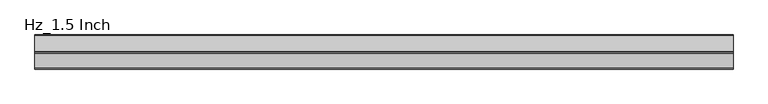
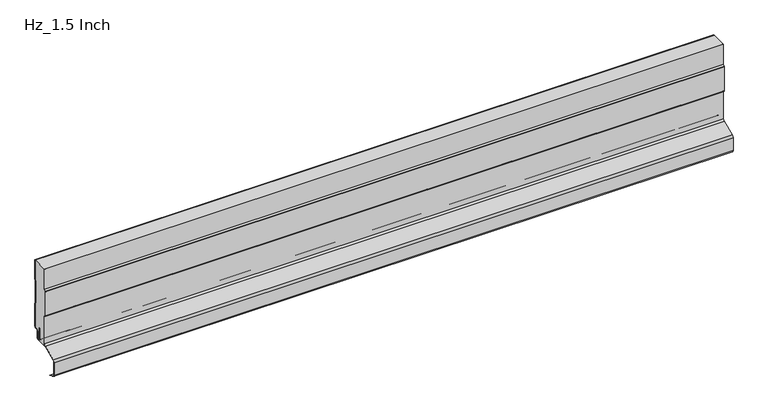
"""IFC4 building model written with IfcOpenShell, lengths in millimetres: plate geometry, AWIP_R18_CP_HR5_Hz_Roof Panel : Hz_1.5 Inch."""

from ifc_helpers import new_model, si_unit, point, frame, frame_2d, origin, place, context, project, spatial, polyline, circle_curve, trimmed, segment, composite_curve, outline, extrude, source, transform, mapped, element, save
from ifc_brep_helpers import plane_surface, cylinder_surface, revolved_surface, advanced_brep


def hz_1_5_inch_2827782e(model_context):
    return source(origin(), model_context, "Body", "SolidModel", [
        extrude(outline(composite_curve([segment(polyline([(-0.8, 161.5426774), (-0.8, 203.2), (0.0, 203.2), (0.0, 161.5426774)]), True, "CONTINUOUS"), segment(trimmed(circle_curve(frame_2d((-3.2, 161.5426774)), 3.2), [point((0.0, 161.5426774))], [point((-0.2624164, 160.2735823))], False, "CARTESIAN"), True, "CONTINUOUS"), segment(polyline([(-0.2624164, 160.2735823), (-1.2949872, 157.8834831)]), True, "CONTINUOUS"), segment(trimmed(circle_curve(frame_2d((1.0, 156.8920026)), 2.5), [point((-1.2949872, 157.8834831))], [point((-1.5, 156.8920026))], True, "CARTESIAN"), True, "CONTINUOUS"), segment(polyline([(-1.5, 156.8920026), (-1.5, 108.5079974)]), True, "CONTINUOUS"), segment(trimmed(circle_curve(frame_2d((1.0, 108.5079974)), 2.5), [point((-1.5, 108.5079974))], [point((-1.2949872, 107.5165169))], True, "CARTESIAN"), True, "CONTINUOUS"), segment(polyline([(-1.2949872, 107.5165169), (-0.2624164, 105.1264177)]), True, "CONTINUOUS"), segment(trimmed(circle_curve(frame_2d((-3.2, 103.8573226)), 3.2), [point((-0.2624164, 105.1264177))], [point((0.0, 103.8573226))], False, "CARTESIAN"), True, "CONTINUOUS"), segment(polyline([(0.0, 103.8573226), (0.0, 54.1)]), True, "CONTINUOUS"), segment(trimmed(circle_curve(frame_2d((-3.0, 54.1)), 3.0), [point((0.0, 54.1))], [point((-3.0, 51.1))], False, "CARTESIAN"), True, "CONTINUOUS"), segment(polyline([(-3.0, 51.1), (-5.0, 51.1)]), True, "CONTINUOUS"), segment(trimmed(circle_curve(frame_2d((-5.0, 47.1)), 4.0), [point((-5.0, 51.1))], [point((-9.0, 47.1))], True, "CARTESIAN"), True, "CONTINUOUS"), segment(polyline([(-9.0, 47.1), (-9.0, 33.5841899)]), True, "CONTINUOUS"), segment(trimmed(circle_curve(frame_2d((-12.0, 33.5841899)), 3.0), [point((-9.0, 33.5841899))], [point((-12.0, 30.5841899))], False, "CARTESIAN"), True, "CONTINUOUS"), segment(polyline([(-12.0, 30.5841899), (-14.0, 30.5841899)]), True, "CONTINUOUS"), segment(trimmed(circle_curve(frame_2d((-14.0, 33.5841899)), 3.0), [point((-14.0, 30.5841899))], [point((-17.0, 33.5841899))], False, "CARTESIAN"), True, "CONTINUOUS"), segment(polyline([(-17.0, 33.5841899), (-17.0, 59.5252318), (-16.2, 59.5252318), (-16.2, 33.5841899)]), True, "CONTINUOUS"), segment(trimmed(circle_curve(frame_2d((-14.0, 33.5841899)), 2.2), [point((-16.2, 33.5841899))], [point((-14.0, 31.3841899))], True, "CARTESIAN"), True, "CONTINUOUS"), segment(polyline([(-14.0, 31.3841899), (-12.0, 31.3841899)]), True, "CONTINUOUS"), segment(trimmed(circle_curve(frame_2d((-12.0, 33.5841899)), 2.2), [point((-12.0, 31.3841899))], [point((-9.8, 33.5841899))], True, "CARTESIAN"), True, "CONTINUOUS"), segment(polyline([(-9.8, 33.5841899), (-9.8, 47.1)]), True, "CONTINUOUS"), segment(trimmed(circle_curve(frame_2d((-5.0, 47.1)), 4.8), [point((-9.8, 47.1))], [point((-5.0, 51.9))], False, "CARTESIAN"), True, "CONTINUOUS"), segment(polyline([(-5.0, 51.9), (-3.0, 51.9)]), True, "CONTINUOUS"), segment(trimmed(circle_curve(frame_2d((-3.0, 54.1)), 2.2), [point((-3.0, 51.9))], [point((-0.8, 54.1))], True, "CARTESIAN"), True, "CONTINUOUS"), segment(polyline([(-0.8, 54.1), (-0.8, 103.8573226)]), True, "CONTINUOUS"), segment(trimmed(circle_curve(frame_2d((-3.2, 103.8573226)), 2.4), [point((-0.8, 103.8573226))], [point((-0.9968123, 104.8091439))], True, "CARTESIAN"), True, "CONTINUOUS"), segment(polyline([(-0.9968123, 104.8091439), (-2.0293831, 107.1992431)]), True, "CONTINUOUS"), segment(trimmed(circle_curve(frame_2d((1.0, 108.5079974)), 3.3), [point((-2.0293831, 107.1992431))], [point((-2.3, 108.5079974))], False, "CARTESIAN"), True, "CONTINUOUS"), segment(polyline([(-2.3, 108.5079974), (-2.3, 156.8920026)]), True, "CONTINUOUS"), segment(trimmed(circle_curve(frame_2d((1.0, 156.8920026)), 3.3), [point((-2.3, 156.8920026))], [point((-2.0293831, 158.2007569))], False, "CARTESIAN"), True, "CONTINUOUS"), segment(polyline([(-2.0293831, 158.2007569), (-0.9968123, 160.5908561)]), True, "CONTINUOUS"), segment(trimmed(circle_curve(frame_2d((-3.2, 161.5426774)), 2.4), [point((-0.9968123, 160.5908561))], [point((-0.8, 161.5426774))], True, "CARTESIAN"), True, "CONTINUOUS")], self_intersect=False)), frame((-723.9042608, 0.0, 0.0), z_axis=(1.0, 0.0, 0.0), x_axis=(0.0, 1.0, 0.0)), (0.0, 0.0, 1.0), 1447.8085217),
        extrude(outline(composite_curve([segment(polyline([(-35.3158805, 158.5882334), (-35.3158805, 203.2), (-34.5158805, 203.2), (-34.5158805, 158.7499765)]), True, "CONTINUOUS"), segment(trimmed(circle_curve(frame_2d((-35.8158805, 158.7499765)), 1.3), [point((-34.5158805, 158.7499765))], [point((-34.7621796, 157.9885867))], False, "CARTESIAN"), True, "CONTINUOUS"), segment(polyline([(-34.7621796, 157.9885867), (-37.2999999, 154.4764522), (-37.2999999, 100.2735719), (-34.7621795, 96.7614373)]), True, "CONTINUOUS"), segment(trimmed(circle_curve(frame_2d((-35.8158804, 96.0000475)), 1.3), [point((-34.7621795, 96.7614373))], [point((-34.5158804, 96.0000475))], False, "CARTESIAN"), True, "CONTINUOUS"), segment(polyline([(-34.5158804, 96.0000475), (-34.5158804, 35.2161306)]), True, "CONTINUOUS"), segment(trimmed(circle_curve(frame_2d((-39.3158804, 35.2161306)), 4.8), [point((-34.5158804, 35.2161306))], [point((-37.4404013, 30.7976944))], False, "CARTESIAN"), True, "CONTINUOUS"), segment(polyline([(-37.4404013, 30.7976944), (-67.4569246, 18.0566792)]), True, "CONTINUOUS"), segment(trimmed(circle_curve(frame_2d((-65.8158804, 14.1905475)), 4.2), [point((-67.4569246, 18.0566792))], [point((-70.0158804, 14.1905475))], True, "CARTESIAN"), True, "CONTINUOUS"), segment(polyline([(-70.0158804, 14.1905475), (-70.0158804, -14.1905446)]), True, "CONTINUOUS"), segment(trimmed(circle_curve(frame_2d((-65.8158804, -14.1905446)), 4.2), [point((-70.0158804, -14.1905446))], [point((-67.4569214, -18.0566776))], True, "CARTESIAN"), True, "CONTINUOUS"), segment(polyline([(-67.4569214, -18.0566776), (-54.8561658, -23.4052667), (-55.1672483, -24.1423084), (-67.7695007, -18.7930838)]), True, "CONTINUOUS"), segment(trimmed(circle_curve(frame_2d((-65.8158804, -14.1905446)), 5.0), [point((-67.7695007, -18.7930838))], [point((-70.8158804, -14.1905446))], False, "CARTESIAN"), True, "CONTINUOUS"), segment(polyline([(-70.8158804, -14.1905446), (-70.8158804, 14.1905475)]), True, "CONTINUOUS"), segment(trimmed(circle_curve(frame_2d((-65.8158804, 14.1905475)), 5.0), [point((-70.8158804, 14.1905475))], [point((-67.7695045, 18.7930852))], False, "CARTESIAN"), True, "CONTINUOUS"), segment(polyline([(-67.7695045, 18.7930852), (-37.7529811, 31.5341005)]), True, "CONTINUOUS"), segment(trimmed(circle_curve(frame_2d((-39.3158804, 35.2161306)), 4.0), [point((-37.7529811, 31.5341005))], [point((-35.3158804, 35.2161306))], True, "CARTESIAN"), True, "CONTINUOUS"), segment(polyline([(-35.3158804, 35.2161306), (-35.3158804, 96.1617908), (-37.8158083, 99.6214851)]), True, "CONTINUOUS"), segment(trimmed(circle_curve(frame_2d((-36.5999996, 100.5000119)), 1.5), [point((-37.8158083, 99.6214851))], [point((-38.0999996, 100.5000119))], False, "CARTESIAN"), True, "CONTINUOUS"), segment(polyline([(-38.0999996, 100.5000119), (-38.0999996, 154.2490404)]), True, "CONTINUOUS"), segment(trimmed(circle_curve(frame_2d((-36.5999999, 154.2500118)), 1.5), [point((-38.0999996, 154.2490404))], [point((-37.8158086, 155.1285386))], False, "CARTESIAN"), True, "CONTINUOUS"), segment(polyline([(-37.8158086, 155.1285386), (-35.3158805, 158.5882334)]), True, "CONTINUOUS")], self_intersect=False)), frame((-723.9042608, 0.0, 0.0), z_axis=(1.0, 0.0, 0.0), x_axis=(0.0, 1.0, 0.0)), (0.0, 0.0, 1.0), 1447.8085217),
        advanced_brep(
        [(-723.9042608, -34.5158809, 203.2), (723.9042608, -34.5158809, 203.2), (723.9042608, -0.8, 203.2), (-723.9042608, -0.8, 203.2), (723.9042608, -34.5158809, 158.7499765), (-723.9042608, -34.5158809, 158.7499765), (-723.9042608, -34.76218, 157.9885867), (723.9042608, -34.76218, 157.9885867), (-723.9042608, -37.3000003, 154.4764522), (723.9042608, -37.3000003, 154.4764522), (-723.9042608, -37.3000003, 100.2735719), (723.9042608, -37.3000003, 100.2735719), (-723.9042608, -34.7621799, 96.7614373), (723.9042608, -34.7621799, 96.7614373), (-723.9042608, -34.5158808, 96.0000475), (723.9042608, -34.5158808, 96.0000475), (-723.9042608, -34.5158808, 35.2161306), (723.9042608, -34.5158808, 35.2161306), (-723.9042608, -38.1209553, 30.5672433), (723.9042608, -38.1209553, 30.5672433), (-723.9042608, -14.0, 30.5672433), (723.9042608, -14.0, 30.5672433), (-723.9042608, -17.0, 33.5672433), (723.9042608, -17.0, 33.5672433), (-723.9042608, -17.0, 59.5082852), (723.9042608, -17.0, 59.5082852), (-723.9042608, -16.2, 59.5082852), (723.9042608, -16.2, 59.5082852), (-723.9042608, -16.2, 33.5672433), (723.9042608, -16.2, 33.5672433), (-723.9042608, -14.0, 31.3672433), (723.9042608, -14.0, 31.3672433), (-723.9042608, -12.0, 31.3672433), (723.9042608, -12.0, 31.3672433), (-723.9042608, -9.8, 33.5672433), (723.9042608, -9.8, 33.5672433), (-723.9042608, -9.8, 47.0830534), (723.9042608, -9.8, 47.0830534), (-723.9042608, -5.0, 51.8830534), (723.9042608, -5.0, 51.8830534), (-723.9042608, -3.0, 51.8830534), (723.9042608, -3.0, 51.8830534), (-723.9042608, -0.8, 54.0830534), (723.9042608, -0.8, 54.0830534), (-723.9042608, -0.8, 103.840376), (723.9042608, -0.8, 103.840376), (-723.9042608, -0.9968123, 104.7921973), (723.9042608, -0.9968123, 104.7921973), (-723.9042608, -2.0293831, 107.1822965), (723.9042608, -2.0293831, 107.1822965), (-723.9042608, -2.3, 108.4910509), (723.9042608, -2.3, 108.4910509), (-723.9042608, -2.3, 156.875056), (723.9042608, -2.3, 156.875056), (-723.9042608, -2.0293831, 158.1838103), (723.9042608, -2.0293831, 158.1838103), (-723.9042608, -0.9968123, 160.5739095), (723.9042608, -0.9968123, 160.5739095), (-723.9042608, -0.8, 161.5257309), (723.9042608, -0.8, 161.5257309)],
        [
            (0, 1),
            (1, 2),
            (2, 3),
            (3, 0),
            (4, 1),
            (0, 5),
            (5, 4),
            (6, 7),
            (7, 4, circle_curve(frame((723.9042608, -35.8158809, 158.7499765), z_axis=(1.0, 0.0, 0.0), x_axis=(0.0, 0.0, 1.0)), 1.3)),
            (5, 6, circle_curve(frame((-723.9042608, -35.8158809, 158.7499765), z_axis=(-1.0, 0.0, 0.0), x_axis=(0.0, 0.0, 1.0)), 1.3)),
            (8, 9),
            (9, 7),
            (6, 8),
            (10, 11),
            (11, 9),
            (8, 10),
            (12, 13),
            (13, 11),
            (10, 12),
            (14, 15),
            (15, 13, circle_curve(frame((723.9042608, -35.8158808, 96.0000475), z_axis=(1.0, 0.0, 0.0), x_axis=(0.0, 0.0, 1.0)), 1.3)),
            (12, 14, circle_curve(frame((-723.9042608, -35.8158808, 96.0000475), z_axis=(-1.0, 0.0, 0.0), x_axis=(0.0, 0.0, 1.0)), 1.3)),
            (16, 17),
            (17, 15),
            (14, 16),
            (18, 19),
            (19, 17, circle_curve(frame((723.9042608, -39.3158808, 35.2161306), z_axis=(1.0, 0.0, 0.0), x_axis=(0.0, 0.0, 1.0)), 4.8)),
            (16, 18, circle_curve(frame((-723.9042608, -39.3158808, 35.2161306), z_axis=(-1.0, 0.0, 0.0), x_axis=(0.0, 0.0, 1.0)), 4.8)),
            (20, 21),
            (21, 19),
            (18, 20),
            (22, 23),
            (23, 21, circle_curve(frame((723.9042608, -14.0, 33.5672433), z_axis=(1.0, 0.0, 0.0), x_axis=(0.0, 0.0, 1.0)), 3.0)),
            (20, 22, circle_curve(frame((-723.9042608, -14.0, 33.5672433), z_axis=(-1.0, 0.0, 0.0), x_axis=(0.0, 0.0, 1.0)), 3.0)),
            (24, 25),
            (25, 23),
            (22, 24),
            (26, 27),
            (27, 25),
            (24, 26),
            (28, 29),
            (29, 27),
            (26, 28),
            (30, 31),
            (31, 29, circle_curve(frame((723.9042608, -14.0, 33.5672433), z_axis=(-1.0, 0.0, 0.0), x_axis=(0.0, 0.0, 1.0)), 2.2)),
            (28, 30, circle_curve(frame((-723.9042608, -14.0, 33.5672433), z_axis=(1.0, 0.0, 0.0), x_axis=(0.0, 0.0, 1.0)), 2.2)),
            (32, 33),
            (33, 31),
            (30, 32),
            (34, 35),
            (35, 33, circle_curve(frame((723.9042608, -12.0, 33.5672433), z_axis=(-1.0, 0.0, 0.0), x_axis=(0.0, 0.0, 1.0)), 2.2)),
            (32, 34, circle_curve(frame((-723.9042608, -12.0, 33.5672433), z_axis=(1.0, 0.0, 0.0), x_axis=(0.0, 0.0, 1.0)), 2.2)),
            (36, 37),
            (37, 35),
            (34, 36),
            (38, 39),
            (39, 37, circle_curve(frame((723.9042608, -5.0, 47.0830534), z_axis=(1.0, 0.0, 0.0), x_axis=(0.0, 0.0, 1.0)), 4.8)),
            (36, 38, circle_curve(frame((-723.9042608, -5.0, 47.0830534), z_axis=(-1.0, 0.0, 0.0), x_axis=(0.0, 0.0, 1.0)), 4.8)),
            (40, 41),
            (41, 39),
            (38, 40),
            (42, 43),
            (43, 41, circle_curve(frame((723.9042608, -3.0, 54.0830534), z_axis=(-1.0, 0.0, 0.0), x_axis=(0.0, 0.0, 1.0)), 2.2)),
            (40, 42, circle_curve(frame((-723.9042608, -3.0, 54.0830534), z_axis=(1.0, 0.0, 0.0), x_axis=(0.0, 0.0, 1.0)), 2.2)),
            (44, 45),
            (45, 43),
            (42, 44),
            (46, 47),
            (47, 45, circle_curve(frame((723.9042608, -3.2, 103.840376), z_axis=(-1.0, 0.0, 0.0), x_axis=(0.0, 0.0, 1.0)), 2.4)),
            (44, 46, circle_curve(frame((-723.9042608, -3.2, 103.840376), z_axis=(1.0, 0.0, 0.0), x_axis=(0.0, 0.0, 1.0)), 2.4)),
            (48, 49),
            (49, 47),
            (46, 48),
            (50, 51),
            (51, 49, circle_curve(frame((723.9042608, 1.0, 108.4910509), z_axis=(1.0, 0.0, 0.0), x_axis=(0.0, 0.0, 1.0)), 3.3)),
            (48, 50, circle_curve(frame((-723.9042608, 1.0, 108.4910509), z_axis=(-1.0, 0.0, 0.0), x_axis=(0.0, 0.0, 1.0)), 3.3)),
            (52, 53),
            (53, 51),
            (50, 52),
            (54, 55),
            (55, 53, circle_curve(frame((723.9042608, 1.0, 156.875056), z_axis=(1.0, 0.0, 0.0), x_axis=(0.0, 0.0, 1.0)), 3.3)),
            (52, 54, circle_curve(frame((-723.9042608, 1.0, 156.875056), z_axis=(-1.0, 0.0, 0.0), x_axis=(0.0, 0.0, 1.0)), 3.3)),
            (56, 57),
            (57, 55),
            (54, 56),
            (58, 59),
            (59, 57, circle_curve(frame((723.9042608, -3.2, 161.5257309), z_axis=(-1.0, 0.0, 0.0), x_axis=(0.0, 0.0, 1.0)), 2.4)),
            (56, 58, circle_curve(frame((-723.9042608, -3.2, 161.5257309), z_axis=(1.0, 0.0, 0.0), x_axis=(0.0, 0.0, 1.0)), 2.4)),
            (58, 3),
            (2, 59),
        ],
        [
            plane_surface(frame((723.9042608, 5.0, 203.2), z_axis=(0.0, 0.0, 1.0), x_axis=(-1.0, 0.0, 0.0))),
            plane_surface(frame((-723.9042608, -34.5158809, 219.5987272), z_axis=(0.0, -1.0, 0.0), x_axis=(1.0, 0.0, 0.0))),
            revolved_surface(polyline([(723.9042608, -35.8158809, 160.0499765), (-723.9042608, -35.8158809, 160.0499765)]), (-723.9042608, -35.8158809, 158.7499765), (1.0, 0.0, 0.0)),
            plane_surface(frame((-723.9042608, -34.76218, 157.9885867), z_axis=(0.0, -0.8105391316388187, 0.5856844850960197), x_axis=(1.0, 0.0, 0.0))),
            plane_surface(frame((-723.9042608, -37.3000003, 154.4764522), z_axis=(0.0, -1.0, 0.0), x_axis=(1.0, 0.0, 0.0))),
            plane_surface(frame((-723.9042608, -37.3000003, 100.2735719), z_axis=(0.0, -0.810539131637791, -0.5856844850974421), x_axis=(1.0, 0.0, 0.0))),
            revolved_surface(polyline([(723.9042608, -35.8158808, 97.30004749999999), (-723.9042608, -35.8158808, 97.30004749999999)]), (-723.9042608, -35.8158808, 96.0000475), (1.0, 0.0, 0.0)),
            plane_surface(frame((-723.9042608, -34.5158808, 96.0000475), z_axis=(0.0, -1.0, 0.0), x_axis=(1.0, 0.0, 0.0))),
            revolved_surface(polyline([(723.9042608, -39.3158808, 40.0161306), (-723.9042608, -39.3158808, 40.0161306)]), (-723.9042608, -39.3158808, 35.2161306), (1.0, 0.0, 0.0)),
            plane_surface(frame((-723.9042608, -38.1209553, 30.5672433), z_axis=(0.0, 0.0, -1.0), x_axis=(1.0, 0.0, 0.0))),
            revolved_surface(polyline([(723.9042608, -14.0, 36.5672433), (-723.9042608, -14.0, 36.5672433)]), (-723.9042608, -14.0, 33.5672433), (1.0, 0.0, 0.0)),
            plane_surface(frame((-723.9042608, -17.0, 33.5672433), z_axis=(0.0, 1.0, 0.0), x_axis=(1.0, 0.0, 0.0))),
            plane_surface(frame((-723.9042608, -17.0, 59.5082852), z_axis=(0.0, 0.0, -1.0), x_axis=(1.0, 0.0, 0.0))),
            plane_surface(frame((-723.9042608, -16.2, 59.5082852), z_axis=(0.0, -1.0, 0.0), x_axis=(1.0, 0.0, 0.0))),
            cylinder_surface(frame((-723.9042608, -14.0, 33.5672433), z_axis=(-1.0, 0.0, 0.0), x_axis=(0.0, 0.0, 1.0)), 2.2),
            plane_surface(frame((-723.9042608, -14.0, 31.3672433), z_axis=(0.0, 0.0, -1.0), x_axis=(1.0, 0.0, 0.0))),
            cylinder_surface(frame((-723.9042608, -12.0, 33.5672433), z_axis=(-1.0, 0.0, 0.0), x_axis=(0.0, 0.0, 1.0)), 2.2),
            plane_surface(frame((-723.9042608, -9.8, 33.5672433), z_axis=(0.0, 1.0, 0.0), x_axis=(1.0, 0.0, 0.0))),
            revolved_surface(polyline([(723.9042608, -5.0, 51.883053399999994), (-723.9042608, -5.0, 51.883053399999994)]), (-723.9042608, -5.0, 47.0830534), (1.0, 0.0, 0.0)),
            plane_surface(frame((-723.9042608, -5.0, 51.8830534), z_axis=(0.0, 0.0, -1.0), x_axis=(1.0, 0.0, 0.0))),
            cylinder_surface(frame((-723.9042608, -3.0, 54.0830534), z_axis=(-1.0, 0.0, 0.0), x_axis=(0.0, 0.0, 1.0)), 2.2),
            plane_surface(frame((-723.9042608, -0.8, 54.0830534), z_axis=(0.0, 1.0, 0.0), x_axis=(1.0, 0.0, 0.0))),
            cylinder_surface(frame((-723.9042608, -3.2, 103.840376), z_axis=(-1.0, 0.0, 0.0), x_axis=(0.0, 0.0, 1.0)), 2.4),
            plane_surface(frame((-723.9042608, -0.9968123, 104.7921973), z_axis=(0.0, 0.9179948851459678, 0.39659222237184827), x_axis=(1.0, 0.0, 0.0))),
            revolved_surface(polyline([(723.9042608, 1.0, 111.7910509), (-723.9042608, 1.0, 111.7910509)]), (-723.9042608, 1.0, 108.4910509), (1.0, 0.0, 0.0)),
            plane_surface(frame((-723.9042608, -2.3, 108.4910509), z_axis=(0.0, 1.0, 0.0), x_axis=(1.0, 0.0, 0.0))),
            revolved_surface(polyline([(723.9042608, 1.0, 160.175056), (-723.9042608, 1.0, 160.175056)]), (-723.9042608, 1.0, 156.875056), (1.0, 0.0, 0.0)),
            plane_surface(frame((-723.9042608, -2.0293831, 158.1838103), z_axis=(0.0, 0.9179948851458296, -0.396592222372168), x_axis=(1.0, 0.0, 0.0))),
            cylinder_surface(frame((-723.9042608, -3.2, 161.5257309), z_axis=(-1.0, 0.0, 0.0), x_axis=(0.0, 0.0, 1.0)), 2.4),
            plane_surface(frame((-723.9042608, -0.8, 161.5257309), z_axis=(0.0, 1.0, 0.0), x_axis=(1.0, 0.0, 0.0))),
            plane_surface(frame((-723.9042608, -0.8, 508.0), z_axis=(-1.0, 0.0, 0.0), x_axis=(0.0, -1.0, 0.0))),
            plane_surface(frame((723.9042608, -0.8, 508.0), z_axis=(1.0, 0.0, 0.0), x_axis=(0.0, -1.0, 0.0))),
        ],
        [
            (0, [[1, 2, 3, 4]]),
            (1, [[5, -1, 6, 7]]),
            (2, [[8, 9, -7, 10]]),
            (3, [[11, 12, -8, 13]]),
            (4, [[14, 15, -11, 16]]),
            (5, [[17, 18, -14, 19]]),
            (6, [[20, 21, -17, 22]]),
            (7, [[23, 24, -20, 25]]),
            (8, [[26, 27, -23, 28]]),
            (9, [[29, 30, -26, 31]]),
            (10, [[32, 33, -29, 34]]),
            (11, [[35, 36, -32, 37]]),
            (12, [[38, 39, -35, 40]]),
            (13, [[41, 42, -38, 43]]),
            (14, [[44, 45, -41, 46]]),
            (15, [[47, 48, -44, 49]]),
            (16, [[50, 51, -47, 52]]),
            (17, [[53, 54, -50, 55]]),
            (18, [[56, 57, -53, 58]]),
            (19, [[59, 60, -56, 61]]),
            (20, [[62, 63, -59, 64]]),
            (21, [[65, 66, -62, 67]]),
            (22, [[68, 69, -65, 70]]),
            (23, [[71, 72, -68, 73]]),
            (24, [[74, 75, -71, 76]]),
            (25, [[77, 78, -74, 79]]),
            (26, [[80, 81, -77, 82]]),
            (27, [[83, 84, -80, 85]]),
            (28, [[86, 87, -83, 88]]),
            (29, [[89, -3, 90, -86]]),
            (30, [[-6, -4, -89, -88, -85, -82, -79, -76, -73, -70, -67, -64, -61, -58, -55, -52, -49, -46, -43, -40, -37, -34, -31, -28, -25, -22, -19, -16, -13, -10]]),
            (31, [[-90, -2, -5, -9, -12, -15, -18, -21, -24, -27, -30, -33, -36, -39, -42, -45, -48, -51, -54, -57, -60, -63, -66, -69, -72, -75, -78, -81, -84, -87]]),
        ],
    ),
    ])


if __name__ == "__main__":
    model = new_model("IFC4")
    model_context = context("Model", 3, world=origin())
    ifc_project = project(units=[si_unit("LENGTHUNIT", "METRE", prefix="MILLI")], contexts=[model_context])
    site = spatial("IfcSite", under=ifc_project)
    building = spatial("IfcBuilding", under=site)
    placement = place(None, origin())
    hz_1_5_inch_shape = hz_1_5_inch_2827782e(model_context)
    element("IfcPlate", 1, ObjectType="AWIP_R18_CP_HR5_Hz_Roof Panel : Hz_1.5 Inch", at=placement, inside=building, context=model_context, shape_type="MappedRepresentation", body=[
        mapped(hz_1_5_inch_shape, transform((0.0, 0.0, 0.0), x_axis=(1.0, 0.0, 0.0), y_axis=(0.0, 1.0, 0.0), z_axis=(0.0, 0.0, 1.0))),
    ])
    save(model, "model.ifc")
